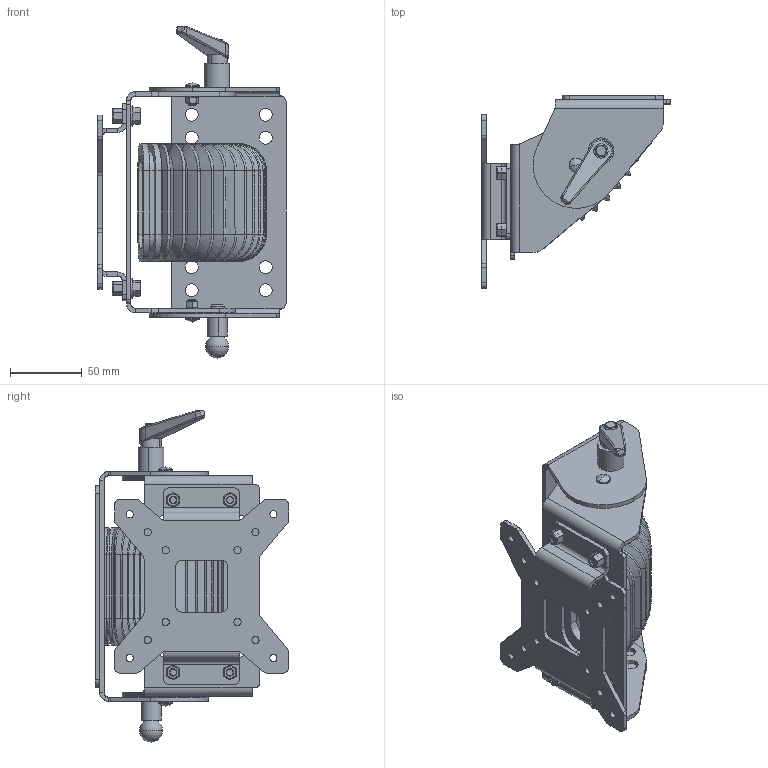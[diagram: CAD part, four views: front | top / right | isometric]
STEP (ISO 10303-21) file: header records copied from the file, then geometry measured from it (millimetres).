
FILE_DESCRIPTION (( 'STEP AP203' ), '1' );
FILE_NAME ('TP.060.3420.STEP', '2025-12-09T14:09:19', ( '' ), ( '' ), 'SwSTEP 2.0', 'SolidWorks 2015', '' );
FILE_SCHEMA (( 'CONFIG_CONTROL_DESIGN' ));
Products named in the file (21): M6_mushroom head_square neck_m5; TP.060.3420; Part10^Assem10; 45 vesa_60 vesa; sýkma yataðý; 60-4 K; M6 Altýköþe Perçin Somun---(HDSM06000010-05); Assem10_3; Part13^Assem10; M6-FHHB_MirrorFHH.M6x12; kovan_1; Copy (3) of 6206_300__W_0__3; Part11^Assem10; Part4^TP.060.3420; disli parca_3; yay; kaucuk koruk; vesa; Part12^Assem10; 60-4 V; M5 Fiberli Somun(HDSM05000001)
Assembly tree (25 placements, depth 3):
  TP.060.3420
    60-4 K
    60-4 V
    sýkma yataðý
    kaucuk koruk
    Assem10_3
      kovan_1
      disli parca_3
      Part13^Assem10
      yay
    Copy (3) of 6206_300__W_0__3
    45 vesa_60 vesa
      vesa
      M6 Altýköþe Perçin Somun---(HDSM06000010-05)  x4
      M6-FHHB_MirrorFHH.M6x12  x4
    M6_mushroom head_square neck_m5  x2
    M5 Fiberli Somun(HDSM05000001)  x2
    Part4^TP.060.3420
  Part10^Assem10
  Part11^Assem10
  Part12^Assem10
Bounding box: 131.11 x 134.43 x 231.07 mm (x, y, z)
Volume: 293134.7 mm3; surface area: 327068.6 mm2
Topology: 24 solids, 25 shells, 2952 faces, 6803 edges, 3942 vertices
Faces by surface type: bspline 1413, torus 520, cylinder 514, plane 427, cone 66, sphere 12
Entity records: 275069 total; most frequent: CARTESIAN_POINT 230096, ORIENTED_EDGE 10912, EDGE_CURVE 5456, DIRECTION 4993, B_SPLINE_CURVE_WITH_KNOTS 3532, VERTEX_POINT 3114, EDGE_LOOP 2584, FACE_OUTER_BOUND 2414
